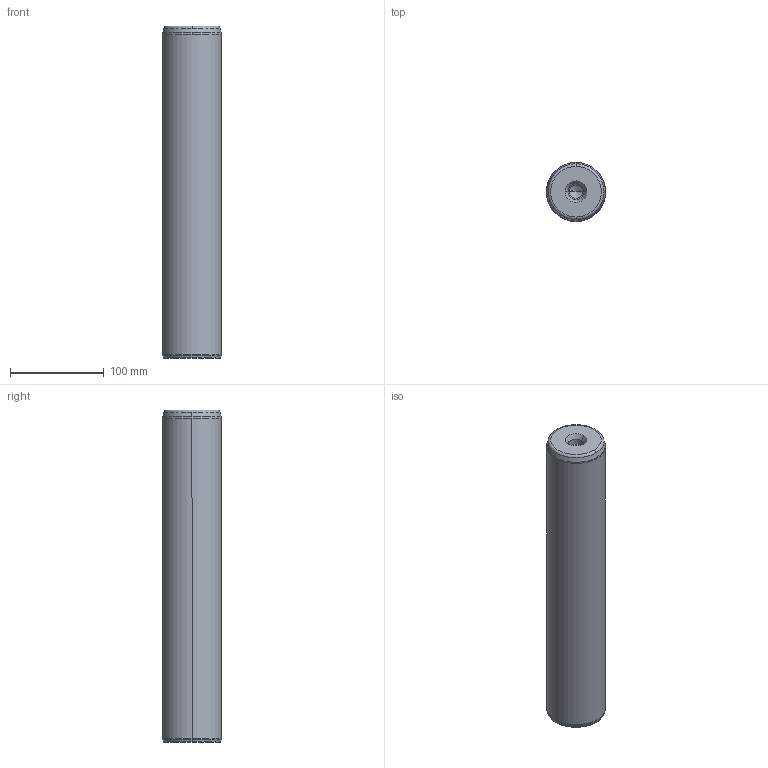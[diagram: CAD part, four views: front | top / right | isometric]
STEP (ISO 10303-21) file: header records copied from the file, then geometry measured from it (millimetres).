
FILE_DESCRIPTION((''),'2;1');
FILE_NAME('P10_063_355.stp','2008-12-23T16:17:21',(''),(''),'Mechanical Desktop 2009','Mechanical Desktop 2009',', , ');
FILE_SCHEMA(('CONFIG_CONTROL_DESIGN'));
Length unit declared in the file: millimetre
Products named in the file (5): Product; ProductAA; blmdl1; ProductA; blmdl1A
Assembly tree (2 placements, depth 3):
  Product
    ProductAA
      blmdl1
  ProductA
  blmdl1A
Bounding box: 63 x 63 x 355 mm (x, y, z)
Volume: 1095918.2 mm3; surface area: 77765.1 mm2
Topology: 1 solids, 1 shells, 26 faces, 66 edges, 41 vertices
Faces by surface type: cone 10, torus 8, cylinder 6, plane 2
Entity records: 1012 total; most frequent: DIRECTION 170, CARTESIAN_POINT 134, ORIENTED_EDGE 128, AXIS2_PLACEMENT_3D 77, EDGE_CURVE 64, CIRCLE 48, VERTEX_POINT 41, EDGE_LOOP 27
